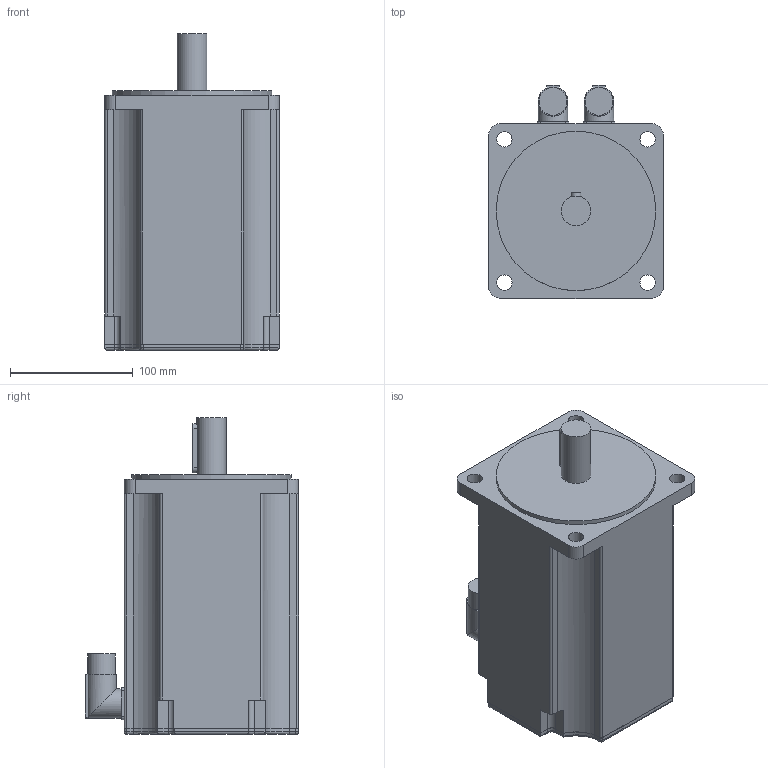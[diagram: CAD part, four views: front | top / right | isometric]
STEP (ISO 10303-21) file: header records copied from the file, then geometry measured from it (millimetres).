
FILE_DESCRIPTION(/* description */ (''),/* implementation_level */ '2;1');
FILE_NAME(/* name */ '\\Lafnas01\disegni\Archivi Lafert\3D\CAD 3D\MODELLI\Assiemi clienti\Serad\Modelli 3D Serad\B71Q\Resolver\Res With Brake\B7108Qxx6B052033.ipt.stp',/* time_stamp */ '2015-09-07T10:52:49+02:00',/* author */ ('Pastrello Ylenia'),/* organization */ (''),/* preprocessor_version */ 'ST-DEVELOPER v15.6',/* originating_system */ 'Autodesk Inventor 2015',/* authorisation */ '');
FILE_SCHEMA (('AUTOMOTIVE_DESIGN { 1 0 10303 214 3 1 1 }'));
Length unit declared in the file: millimetre
Products named in the file (1): B7108Qxx6B052033
Bounding box: 142 x 173.5 x 258 mm (x, y, z)
Volume: 3747734.4 mm3; surface area: 163009.3 mm2
Topology: 1 solids, 1 shells, 154 faces, 400 edges, 258 vertices
Faces by surface type: plane 72, cylinder 70, torus 8, sphere 4
Full cylindrical faces by diameter (mm): 12.5 x4, 22.7 x2, 24 x3, 130 x1
Entity records: 4790 total; most frequent: CARTESIAN_POINT 933, DIRECTION 828, ORIENTED_EDGE 772, EDGE_CURVE 386, AXIS2_PLACEMENT_3D 297, VERTEX_POINT 254, LINE 234, VECTOR 234
